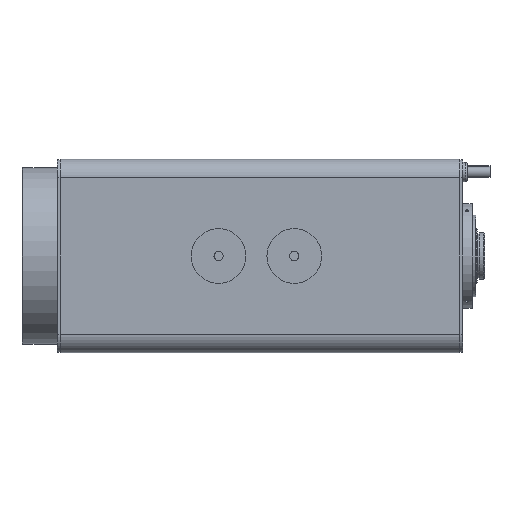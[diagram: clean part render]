
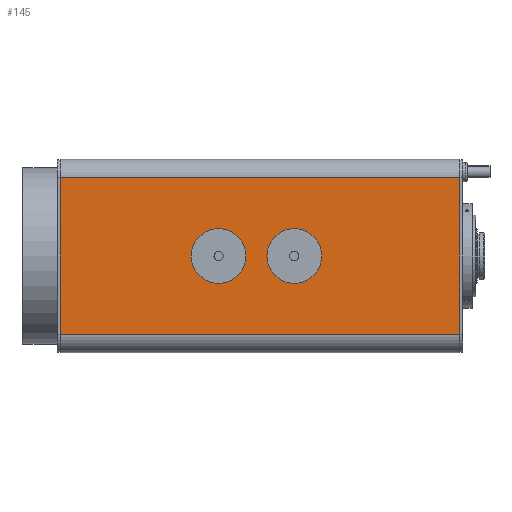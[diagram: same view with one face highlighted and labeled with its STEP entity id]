
A CAD part, front view. The second image highlights one B-rep face of the part: STEP entity #145.
In plain terms, the highlighted planar face has unit normal (0, -1, 0).
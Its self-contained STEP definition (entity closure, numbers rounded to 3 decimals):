
#33 = EDGE_LOOP ( 'NONE', ( #2281, #173, #1108, #352 ) ) ;
#36 = CARTESIAN_POINT ( 'NONE',  ( -246.126, -49., -42.8 ) ) ;
#75 = DIRECTION ( 'NONE',  ( 0., 0., 1. ) ) ;
#117 = CARTESIAN_POINT ( 'NONE',  ( -27.126, -49., 42.8 ) ) ;
#145 = ADVANCED_FACE ( 'NONE', ( #4352, #1323, #3262 ), #2406, .F. ) ;
#173 = ORIENTED_EDGE ( 'NONE', *, *, #1719, .T. ) ;
#184 = CARTESIAN_POINT ( 'NONE',  ( -117.826, -49., 0. ) ) ;
#277 = CARTESIAN_POINT ( 'NONE',  ( -246.126, -49., -53. ) ) ;
#306 = EDGE_CURVE ( 'NONE', #1577, #3879, #4533, .T. ) ;
#352 = ORIENTED_EDGE ( 'NONE', *, *, #4237, .T. ) ;
#370 = DIRECTION ( 'NONE',  ( 0., 0., 1. ) ) ;
#445 = DIRECTION ( 'NONE',  ( 0., -1., 0. ) ) ;
#537 = CARTESIAN_POINT ( 'NONE',  ( -246.126, -49., -42.8 ) ) ;
#549 = EDGE_LOOP ( 'NONE', ( #554, #3622 ) ) ;
#554 = ORIENTED_EDGE ( 'NONE', *, *, #1370, .F. ) ;
#600 = AXIS2_PLACEMENT_3D ( 'NONE', #2262, #5140, #2675 ) ;
#624 = VECTOR ( 'NONE', #2069, 1000. ) ;
#766 = CARTESIAN_POINT ( 'NONE',  ( -117.826, -49., 15. ) ) ;
#1102 = CIRCLE ( 'NONE', #600, 15. ) ;
#1108 = ORIENTED_EDGE ( 'NONE', *, *, #2485, .T. ) ;
#1135 = VERTEX_POINT ( 'NONE', #766 ) ;
#1171 = ORIENTED_EDGE ( 'NONE', *, *, #1482, .F. ) ;
#1305 = CARTESIAN_POINT ( 'NONE',  ( -246.126, -49., 42.8 ) ) ;
#1320 = VERTEX_POINT ( 'NONE', #4273 ) ;
#1323 = FACE_BOUND ( 'NONE', #549, .T. ) ;
#1370 = EDGE_CURVE ( 'NONE', #1135, #4746, #3200, .T. ) ;
#1384 = VECTOR ( 'NONE', #2622, 1000. ) ;
#1476 = AXIS2_PLACEMENT_3D ( 'NONE', #2007, #3591, #3571 ) ;
#1482 = EDGE_CURVE ( 'NONE', #2703, #4860, #3650, .T. ) ;
#1488 = CARTESIAN_POINT ( 'NONE',  ( -117.826, -49., -15. ) ) ;
#1520 = LINE ( 'NONE', #36, #4672 ) ;
#1577 = VERTEX_POINT ( 'NONE', #537 ) ;
#1660 = CARTESIAN_POINT ( 'NONE',  ( -246.126, -49., 42.8 ) ) ;
#1719 = EDGE_CURVE ( 'NONE', #1577, #1320, #1520, .T. ) ;
#1859 = ORIENTED_EDGE ( 'NONE', *, *, #2987, .F. ) ;
#1904 = AXIS2_PLACEMENT_3D ( 'NONE', #2961, #445, #4659 ) ;
#1962 = VECTOR ( 'NONE', #370, 1000. ) ;
#2007 = CARTESIAN_POINT ( 'NONE',  ( -159.326, -49., 0. ) ) ;
#2069 = DIRECTION ( 'NONE',  ( -1., 0., 0. ) ) ;
#2262 = CARTESIAN_POINT ( 'NONE',  ( -117.826, -49., 0. ) ) ;
#2281 = ORIENTED_EDGE ( 'NONE', *, *, #306, .F. ) ;
#2397 = CARTESIAN_POINT ( 'NONE',  ( -159.326, -49., 15. ) ) ;
#2406 = PLANE ( 'NONE',  #3011 ) ;
#2485 = EDGE_CURVE ( 'NONE', #1320, #3424, #5249, .T. ) ;
#2525 = DIRECTION ( 'NONE',  ( 1., 0., 0. ) ) ;
#2622 = DIRECTION ( 'NONE',  ( 0., 0., 1. ) ) ;
#2675 = DIRECTION ( 'NONE',  ( 0., 0., 1. ) ) ;
#2703 = VERTEX_POINT ( 'NONE', #4944 ) ;
#2799 = CARTESIAN_POINT ( 'NONE',  ( -246.126, -49., -53. ) ) ;
#2961 = CARTESIAN_POINT ( 'NONE',  ( -159.326, -49., 0. ) ) ;
#2982 = DIRECTION ( 'NONE',  ( 0., -1., 0. ) ) ;
#2987 = EDGE_CURVE ( 'NONE', #4860, #2703, #4151, .T. ) ;
#3011 = AXIS2_PLACEMENT_3D ( 'NONE', #277, #4470, #4897 ) ;
#3200 = CIRCLE ( 'NONE', #3956, 15. ) ;
#3262 = FACE_OUTER_BOUND ( 'NONE', #33, .T. ) ;
#3424 = VERTEX_POINT ( 'NONE', #117 ) ;
#3496 = EDGE_CURVE ( 'NONE', #4746, #1135, #1102, .T. ) ;
#3571 = DIRECTION ( 'NONE',  ( 0., 0., 1. ) ) ;
#3591 = DIRECTION ( 'NONE',  ( 0., -1., 0. ) ) ;
#3622 = ORIENTED_EDGE ( 'NONE', *, *, #3496, .F. ) ;
#3650 = CIRCLE ( 'NONE', #1904, 15. ) ;
#3879 = VERTEX_POINT ( 'NONE', #1305 ) ;
#3956 = AXIS2_PLACEMENT_3D ( 'NONE', #184, #2982, #75 ) ;
#4151 = CIRCLE ( 'NONE', #1476, 15. ) ;
#4237 = EDGE_CURVE ( 'NONE', #3424, #3879, #4902, .T. ) ;
#4273 = CARTESIAN_POINT ( 'NONE',  ( -27.126, -49., -42.8 ) ) ;
#4352 = FACE_BOUND ( 'NONE', #5202, .T. ) ;
#4470 = DIRECTION ( 'NONE',  ( 0., 1., 0. ) ) ;
#4533 = LINE ( 'NONE', #2799, #1384 ) ;
#4659 = DIRECTION ( 'NONE',  ( 0., 0., 1. ) ) ;
#4667 = CARTESIAN_POINT ( 'NONE',  ( -27.126, -49., -53. ) ) ;
#4672 = VECTOR ( 'NONE', #2525, 1000. ) ;
#4746 = VERTEX_POINT ( 'NONE', #1488 ) ;
#4860 = VERTEX_POINT ( 'NONE', #2397 ) ;
#4897 = DIRECTION ( 'NONE',  ( 0., 0., 1. ) ) ;
#4902 = LINE ( 'NONE', #1660, #624 ) ;
#4944 = CARTESIAN_POINT ( 'NONE',  ( -159.326, -49., -15. ) ) ;
#5140 = DIRECTION ( 'NONE',  ( 0., -1., 0. ) ) ;
#5202 = EDGE_LOOP ( 'NONE', ( #1859, #1171 ) ) ;
#5249 = LINE ( 'NONE', #4667, #1962 ) ;
